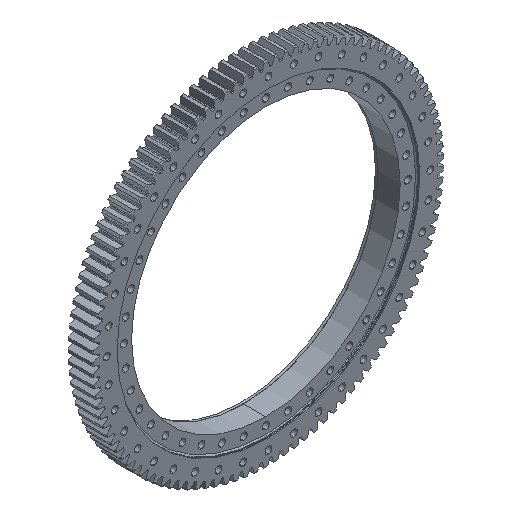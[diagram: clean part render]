
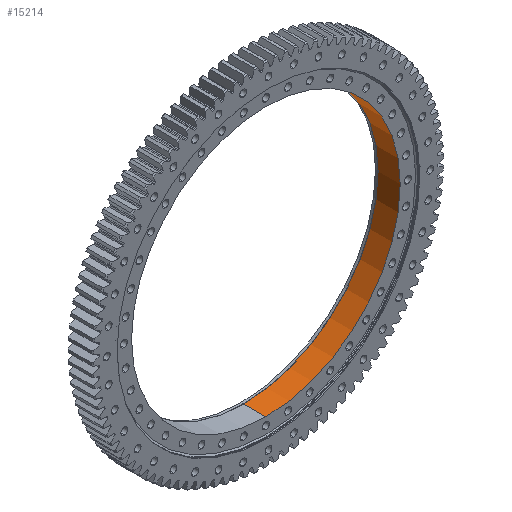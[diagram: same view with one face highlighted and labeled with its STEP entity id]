
A CAD part, isometric view. The second image highlights one B-rep face of the part: STEP entity #15214.
In plain terms, the highlighted cylindrical face has radius 511.5 mm (diameter 1023 mm), a partial arc.
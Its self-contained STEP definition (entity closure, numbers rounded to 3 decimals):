
#187 = ORIENTED_EDGE ( 'NONE', *, *, #30476, .F. ) ;
#1084 = CYLINDRICAL_SURFACE ( 'NONE', #19369, 511.5 ) ;
#4826 = DIRECTION ( 'NONE',  ( 0., 0., -1. ) ) ;
#5098 = CARTESIAN_POINT ( 'NONE',  ( 0., -15.145, 0. ) ) ;
#5771 = CARTESIAN_POINT ( 'NONE',  ( 0., -100.145, -511.5 ) ) ;
#6030 = DIRECTION ( 'NONE',  ( 0., -1., 0. ) ) ;
#6969 = CARTESIAN_POINT ( 'NONE',  ( 0., -15.145, -511.5 ) ) ;
#7997 = EDGE_CURVE ( 'NONE', #19934, #30191, #15118, .T. ) ;
#9562 = EDGE_CURVE ( 'NONE', #29513, #19934, #14748, .T. ) ;
#10877 = DIRECTION ( 'NONE',  ( 0., 0., -1. ) ) ;
#11961 = CARTESIAN_POINT ( 'NONE',  ( 0., -15.145, 511.5 ) ) ;
#14748 = LINE ( 'NONE', #19873, #32599 ) ;
#15118 = CIRCLE ( 'NONE', #33110, 511.5 ) ;
#15214 = ADVANCED_FACE ( 'NONE', ( #16903 ), #1084, .F. ) ;
#16903 = FACE_OUTER_BOUND ( 'NONE', #24981, .T. ) ;
#18248 = EDGE_CURVE ( 'NONE', #29513, #25939, #27556, .T. ) ;
#19352 = AXIS2_PLACEMENT_3D ( 'NONE', #5098, #31176, #10877 ) ;
#19369 = AXIS2_PLACEMENT_3D ( 'NONE', #27342, #6030, #22038 ) ;
#19873 = CARTESIAN_POINT ( 'NONE',  ( 0., 0., -511.5 ) ) ;
#19934 = VERTEX_POINT ( 'NONE', #5771 ) ;
#22038 = DIRECTION ( 'NONE',  ( 0., 0., -1. ) ) ;
#22947 = DIRECTION ( 'NONE',  ( 0., -1., 0. ) ) ;
#24981 = EDGE_LOOP ( 'NONE', ( #187, #29293, #25655, #29744 ) ) ;
#25655 = ORIENTED_EDGE ( 'NONE', *, *, #9562, .T. ) ;
#25939 = VERTEX_POINT ( 'NONE', #11961 ) ;
#26497 = CARTESIAN_POINT ( 'NONE',  ( 0., -100.145, 511.5 ) ) ;
#27342 = CARTESIAN_POINT ( 'NONE',  ( 0., 0., 0. ) ) ;
#27556 = CIRCLE ( 'NONE', #19352, 511.5 ) ;
#28193 = CARTESIAN_POINT ( 'NONE',  ( 0., -100.145, 0. ) ) ;
#29293 = ORIENTED_EDGE ( 'NONE', *, *, #18248, .F. ) ;
#29513 = VERTEX_POINT ( 'NONE', #6969 ) ;
#29576 = LINE ( 'NONE', #29748, #32815 ) ;
#29744 = ORIENTED_EDGE ( 'NONE', *, *, #7997, .T. ) ;
#29748 = CARTESIAN_POINT ( 'NONE',  ( 0., 0., 511.5 ) ) ;
#30191 = VERTEX_POINT ( 'NONE', #26497 ) ;
#30476 = EDGE_CURVE ( 'NONE', #25939, #30191, #29576, .T. ) ;
#31176 = DIRECTION ( 'NONE',  ( 0., -1., 0. ) ) ;
#31246 = DIRECTION ( 'NONE',  ( 0., -1., 0. ) ) ;
#31963 = DIRECTION ( 'NONE',  ( 0., -1., 0. ) ) ;
#32599 = VECTOR ( 'NONE', #22947, 1000. ) ;
#32815 = VECTOR ( 'NONE', #31963, 1000. ) ;
#33110 = AXIS2_PLACEMENT_3D ( 'NONE', #28193, #31246, #4826 ) ;
